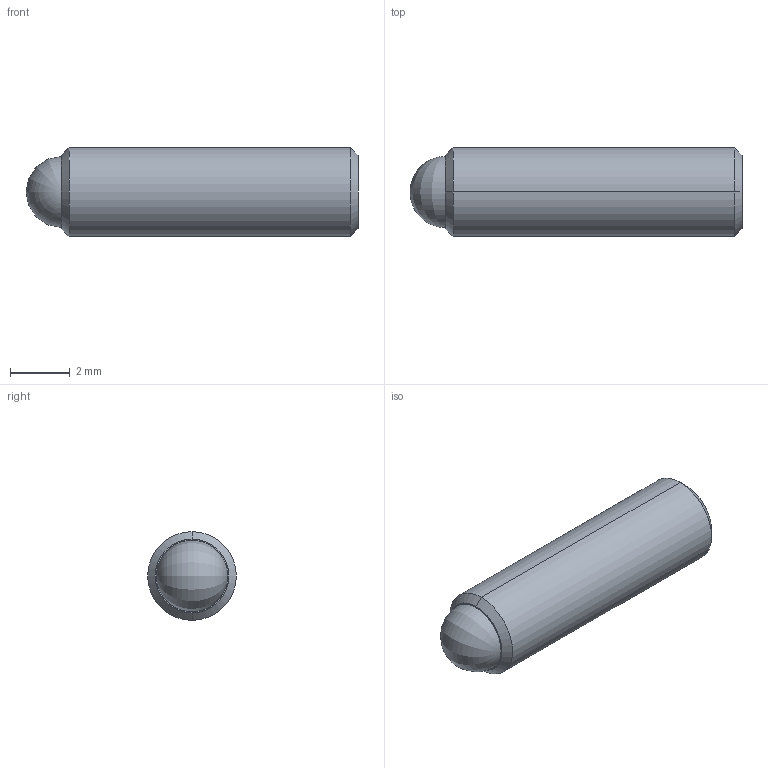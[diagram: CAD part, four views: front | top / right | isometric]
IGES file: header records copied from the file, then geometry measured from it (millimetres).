
Start section: SolidWorks IGES file using analytic representation for surfaces
Global section: file name: C:\Users\workpc\Desktop\KMA Solidworks\TS6-80 Series\TS6-80 SLDPRT\TS6-80-438.IGS; native system: SolidWorks 2013; preprocessor: SolidWorks 2013; author: workpc; date: 140728.153033; units: inch
Bounding box: 11.12 x 2.97 x 2.97 mm (x, y, z)
Surface area: 146.1 mm2 (no closed solid volume)
Topology: 0 solids, 0 shells, 20 faces, 204 edges, 200 vertices
Faces by surface type: revolution 10, bspline 10
